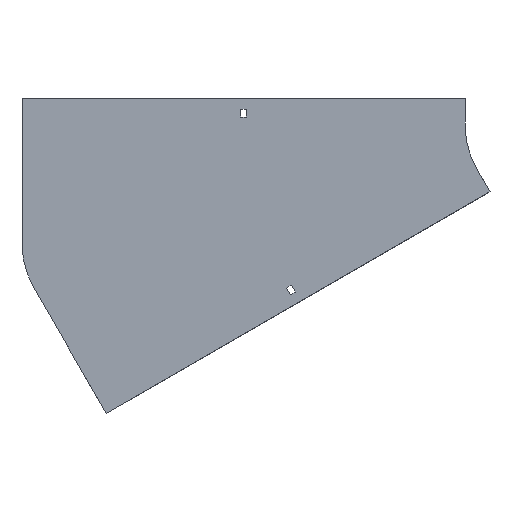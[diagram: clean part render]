
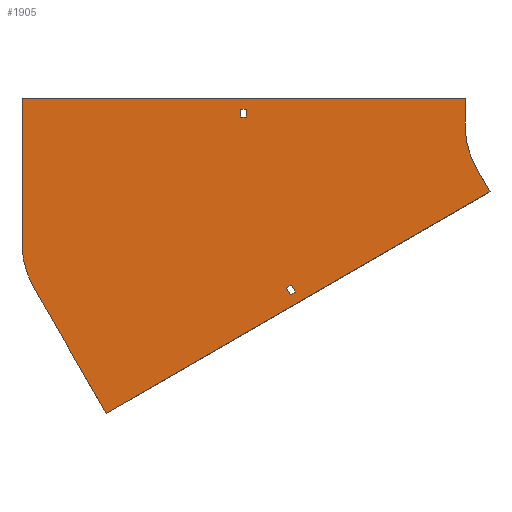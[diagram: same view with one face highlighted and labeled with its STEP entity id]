
A CAD part, front view. The second image highlights one B-rep face of the part: STEP entity #1905.
In plain terms, the highlighted planar face has unit normal (0, -1, 0).
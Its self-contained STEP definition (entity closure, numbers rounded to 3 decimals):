
#2 = DIRECTION ( 'NONE',  ( -1., 0., 0. ) ) ;
#10 = CARTESIAN_POINT ( 'NONE',  ( -355.25, 0., 9. ) ) ;
#11 = VERTEX_POINT ( 'NONE', #16 ) ;
#16 = CARTESIAN_POINT ( 'NONE',  ( -297.526, 0., -182.169 ) ) ;
#36 = DIRECTION ( 'NONE',  ( -0.5, 0., 0.866 ) ) ;
#53 = DIRECTION ( 'NONE',  ( 0.866, 0., 0.5 ) ) ;
#59 = ORIENTED_EDGE ( 'NONE', *, *, #660, .F. ) ;
#66 = LINE ( 'NONE', #656, #1370 ) ;
#71 = EDGE_CURVE ( 'NONE', #1547, #1741, #1724, .T. ) ;
#81 = VERTEX_POINT ( 'NONE', #1735 ) ;
#104 = DIRECTION ( 'NONE',  ( 0., 0., -1. ) ) ;
#107 = ORIENTED_EDGE ( 'NONE', *, *, #1221, .F. ) ;
#150 = EDGE_CURVE ( 'NONE', #81, #1140, #999, .T. ) ;
#153 = CARTESIAN_POINT ( 'NONE',  ( -348.75, 0., 18. ) ) ;
#158 = CIRCLE ( 'NONE', #938, 100. ) ;
#235 = LINE ( 'NONE', #1129, #867 ) ;
#247 = CARTESIAN_POINT ( 'NONE',  ( 0., 0., 0. ) ) ;
#261 = EDGE_CURVE ( 'NONE', #1188, #1453, #158, .T. ) ;
#279 = EDGE_CURVE ( 'NONE', #508, #1491, #416, .T. ) ;
#280 = ORIENTED_EDGE ( 'NONE', *, *, #1102, .F. ) ;
#295 = CARTESIAN_POINT ( 'NONE',  ( -303.156, 0., -185.419 ) ) ;
#310 = AXIS2_PLACEMENT_3D ( 'NONE', #247, #843, #1605 ) ;
#316 = CARTESIAN_POINT ( 'NONE',  ( -604., 0., 30. ) ) ;
#339 = LINE ( 'NONE', #494, #521 ) ;
#356 = CARTESIAN_POINT ( 'NONE',  ( -71.603, 0., -75.981 ) ) ;
#365 = EDGE_CURVE ( 'NONE', #1741, #1712, #235, .T. ) ;
#393 = CIRCLE ( 'NONE', #310, 100. ) ;
#396 = LINE ( 'NONE', #421, #707 ) ;
#400 = FACE_BOUND ( 'NONE', #1107, .T. ) ;
#408 = EDGE_CURVE ( 'NONE', #1491, #640, #1721, .T. ) ;
#416 = LINE ( 'NONE', #726, #1760 ) ;
#421 = CARTESIAN_POINT ( 'NONE',  ( -348.75, 0., 9. ) ) ;
#429 = CARTESIAN_POINT ( 'NONE',  ( -100., 0., 0. ) ) ;
#447 = LINE ( 'NONE', #295, #1759 ) ;
#453 = LINE ( 'NONE', #10, #1094 ) ;
#482 = VERTEX_POINT ( 'NONE', #1901 ) ;
#494 = CARTESIAN_POINT ( 'NONE',  ( -355.25, 0., 18. ) ) ;
#508 = VERTEX_POINT ( 'NONE', #988 ) ;
#521 = VECTOR ( 'NONE', #1866, 1000. ) ;
#531 = VECTOR ( 'NONE', #1879, 1000. ) ;
#547 = CARTESIAN_POINT ( 'NONE',  ( -355.25, 0., 18. ) ) ;
#558 = DIRECTION ( 'NONE',  ( 0., -1., 0. ) ) ;
#566 = EDGE_CURVE ( 'NONE', #1607, #482, #396, .T. ) ;
#588 = DIRECTION ( 'NONE',  ( 1., 0., 0. ) ) ;
#615 = LINE ( 'NONE', #875, #1256 ) ;
#621 = EDGE_CURVE ( 'NONE', #1140, #1607, #339, .T. ) ;
#625 = VECTOR ( 'NONE', #36, 1000. ) ;
#640 = VERTEX_POINT ( 'NONE', #1118 ) ;
#656 = CARTESIAN_POINT ( 'NONE',  ( -508.079, 0., -327.981 ) ) ;
#660 = EDGE_CURVE ( 'NONE', #640, #1188, #66, .T. ) ;
#674 = DIRECTION ( 'NONE',  ( -0.5, 0., 0.866 ) ) ;
#693 = ORIENTED_EDGE ( 'NONE', *, *, #1276, .F. ) ;
#707 = VECTOR ( 'NONE', #104, 1000. ) ;
#726 = CARTESIAN_POINT ( 'NONE',  ( -86.603, 0., -50. ) ) ;
#729 = CARTESIAN_POINT ( 'NONE',  ( 0., 0., 0. ) ) ;
#736 = DIRECTION ( 'NONE',  ( 0., 0., 1. ) ) ;
#766 = ORIENTED_EDGE ( 'NONE', *, *, #1189, .F. ) ;
#799 = VERTEX_POINT ( 'NONE', #316 ) ;
#819 = CARTESIAN_POINT ( 'NONE',  ( -293.026, 0., -189.963 ) ) ;
#821 = DIRECTION ( 'NONE',  ( -0.866, 0., -0.5 ) ) ;
#833 = DIRECTION ( 'NONE',  ( 0.5, 0., -0.866 ) ) ;
#843 = DIRECTION ( 'NONE',  ( 0., -1., 0. ) ) ;
#865 = CARTESIAN_POINT ( 'NONE',  ( -100., 0., 30. ) ) ;
#867 = VECTOR ( 'NONE', #53, 1000. ) ;
#871 = CARTESIAN_POINT ( 'NONE',  ( -71.603, 0., -75.981 ) ) ;
#875 = CARTESIAN_POINT ( 'NONE',  ( -100., 0., 30. ) ) ;
#876 = ORIENTED_EDGE ( 'NONE', *, *, #1356, .F. ) ;
#920 = DIRECTION ( 'NONE',  ( 0., 1., 0. ) ) ;
#924 = ORIENTED_EDGE ( 'NONE', *, *, #279, .F. ) ;
#938 = AXIS2_PLACEMENT_3D ( 'NONE', #1320, #920, #736 ) ;
#962 = CARTESIAN_POINT ( 'NONE',  ( -303.156, 0., -185.419 ) ) ;
#965 = EDGE_CURVE ( 'NONE', #1453, #799, #1082, .T. ) ;
#985 = ORIENTED_EDGE ( 'NONE', *, *, #365, .F. ) ;
#986 = CARTESIAN_POINT ( 'NONE',  ( -298.656, 0., -193.213 ) ) ;
#988 = CARTESIAN_POINT ( 'NONE',  ( -86.603, 0., -50. ) ) ;
#991 = VECTOR ( 'NONE', #821, 1000. ) ;
#999 = LINE ( 'NONE', #1566, #531 ) ;
#1006 = ORIENTED_EDGE ( 'NONE', *, *, #261, .F. ) ;
#1038 = CARTESIAN_POINT ( 'NONE',  ( -604., 0., -135.046 ) ) ;
#1039 = VERTEX_POINT ( 'NONE', #865 ) ;
#1056 = DIRECTION ( 'NONE',  ( -0.866, 0., -0.5 ) ) ;
#1066 = ORIENTED_EDGE ( 'NONE', *, *, #408, .F. ) ;
#1069 = DIRECTION ( 'NONE',  ( 0.5, 0., -0.866 ) ) ;
#1082 = LINE ( 'NONE', #1424, #1137 ) ;
#1094 = VECTOR ( 'NONE', #2, 1000. ) ;
#1102 = EDGE_CURVE ( 'NONE', #1838, #508, #393, .T. ) ;
#1107 = EDGE_LOOP ( 'NONE', ( #1389, #1758, #1413, #1628 ) ) ;
#1118 = CARTESIAN_POINT ( 'NONE',  ( -508.079, 0., -327.981 ) ) ;
#1129 = CARTESIAN_POINT ( 'NONE',  ( -298.656, 0., -193.213 ) ) ;
#1137 = VECTOR ( 'NONE', #1544, 1000. ) ;
#1140 = VERTEX_POINT ( 'NONE', #547 ) ;
#1180 = CARTESIAN_POINT ( 'NONE',  ( -303.156, 0., -185.419 ) ) ;
#1188 = VERTEX_POINT ( 'NONE', #1505 ) ;
#1189 = EDGE_CURVE ( 'NONE', #799, #1039, #1362, .T. ) ;
#1221 = EDGE_CURVE ( 'NONE', #1039, #1838, #615, .T. ) ;
#1226 = VECTOR ( 'NONE', #588, 1000. ) ;
#1256 = VECTOR ( 'NONE', #1343, 1000. ) ;
#1274 = ORIENTED_EDGE ( 'NONE', *, *, #71, .F. ) ;
#1276 = EDGE_CURVE ( 'NONE', #11, #1547, #447, .T. ) ;
#1320 = CARTESIAN_POINT ( 'NONE',  ( -504., 0., -135.046 ) ) ;
#1343 = DIRECTION ( 'NONE',  ( 0., 0., -1. ) ) ;
#1356 = EDGE_CURVE ( 'NONE', #1712, #11, #1408, .T. ) ;
#1361 = AXIS2_PLACEMENT_3D ( 'NONE', #729, #558, #1766 ) ;
#1362 = LINE ( 'NONE', #1635, #1226 ) ;
#1370 = VECTOR ( 'NONE', #674, 1000. ) ;
#1389 = ORIENTED_EDGE ( 'NONE', *, *, #150, .T. ) ;
#1408 = LINE ( 'NONE', #1684, #625 ) ;
#1413 = ORIENTED_EDGE ( 'NONE', *, *, #566, .T. ) ;
#1424 = CARTESIAN_POINT ( 'NONE',  ( -604., 0., -135.046 ) ) ;
#1453 = VERTEX_POINT ( 'NONE', #1038 ) ;
#1460 = FACE_BOUND ( 'NONE', #1646, .T. ) ;
#1480 = VECTOR ( 'NONE', #833, 1000. ) ;
#1491 = VERTEX_POINT ( 'NONE', #871 ) ;
#1495 = ORIENTED_EDGE ( 'NONE', *, *, #965, .F. ) ;
#1505 = CARTESIAN_POINT ( 'NONE',  ( -590.603, 0., -185.046 ) ) ;
#1544 = DIRECTION ( 'NONE',  ( 0., 0., 1. ) ) ;
#1547 = VERTEX_POINT ( 'NONE', #1180 ) ;
#1566 = CARTESIAN_POINT ( 'NONE',  ( -355.25, 0., 9. ) ) ;
#1605 = DIRECTION ( 'NONE',  ( 0., 0., -1. ) ) ;
#1607 = VERTEX_POINT ( 'NONE', #153 ) ;
#1608 = FACE_OUTER_BOUND ( 'NONE', #1888, .T. ) ;
#1619 = EDGE_CURVE ( 'NONE', #482, #81, #453, .T. ) ;
#1628 = ORIENTED_EDGE ( 'NONE', *, *, #1619, .T. ) ;
#1635 = CARTESIAN_POINT ( 'NONE',  ( -604., 0., 30. ) ) ;
#1646 = EDGE_LOOP ( 'NONE', ( #985, #1274, #693, #876 ) ) ;
#1684 = CARTESIAN_POINT ( 'NONE',  ( -297.526, 0., -182.169 ) ) ;
#1712 = VERTEX_POINT ( 'NONE', #819 ) ;
#1721 = LINE ( 'NONE', #356, #991 ) ;
#1724 = LINE ( 'NONE', #962, #1480 ) ;
#1735 = CARTESIAN_POINT ( 'NONE',  ( -355.25, 0., 9. ) ) ;
#1741 = VERTEX_POINT ( 'NONE', #986 ) ;
#1758 = ORIENTED_EDGE ( 'NONE', *, *, #621, .T. ) ;
#1759 = VECTOR ( 'NONE', #1056, 1000. ) ;
#1760 = VECTOR ( 'NONE', #1069, 1000. ) ;
#1766 = DIRECTION ( 'NONE',  ( 0., 0., -1. ) ) ;
#1838 = VERTEX_POINT ( 'NONE', #429 ) ;
#1866 = DIRECTION ( 'NONE',  ( 1., 0., 0. ) ) ;
#1879 = DIRECTION ( 'NONE',  ( 0., 0., 1. ) ) ;
#1888 = EDGE_LOOP ( 'NONE', ( #766, #1495, #1006, #59, #1066, #924, #280, #107 ) ) ;
#1901 = CARTESIAN_POINT ( 'NONE',  ( -348.75, 0., 9. ) ) ;
#1905 = ADVANCED_FACE ( 'NONE', ( #400, #1608, #1460 ), #1911, .T. ) ;
#1911 = PLANE ( 'NONE',  #1361 ) ;
